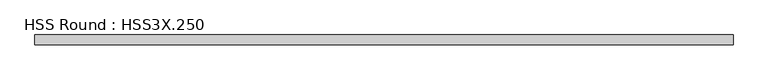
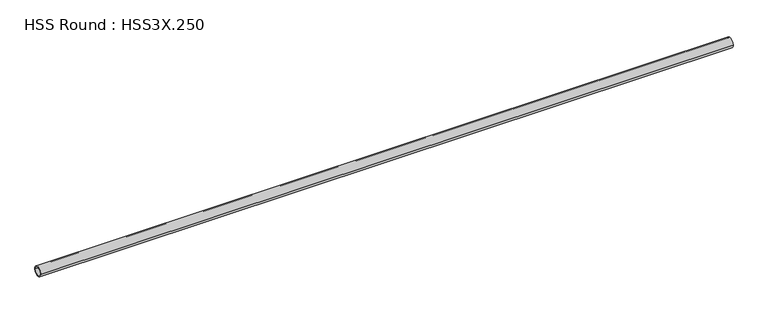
"""IFC4 building model written with IfcOpenShell, lengths in millimetres: member geometry, HSS Round : HSS3X.250."""

import ifcopenshell
import ifcopenshell.guid

model = None  # the IFC model being written
_history = None  # IfcOwnerHistory: only IFC2X3 demands one
_inside = {}  # id of a spatial element -> (the spatial element, [elements in it])
_under = {}  # id of a project, library or spatial element -> (it, [spatial elements below it])
_declared = {}  # id of a project -> (the project, [libraries it declares])
_typed = {}  # id of a type object -> (the type object, [elements of that type])
_made_of = {}  # id of a material, layer set ... -> (it, [elements and type objects made of it])


def new_model(schema):
    """Start an empty IFC model of exactly this schema.

    Asked for "IFC4X3", IfcOpenShell would pick the latest addendum, in which some entities
    have other attributes; the version numbers below select the first issue.
    IFC2X3 requires an IfcOwnerHistory on every rooted entity: one is made here for all.
    """
    global model, _history
    if schema == "IFC4X3":
        model = ifcopenshell.file(schema_version=(4, 3, 0, 0))
    else:
        model = ifcopenshell.file(schema=schema)
    _inside.clear()
    _under.clear()
    _declared.clear()
    _typed.clear()
    _made_of.clear()
    _history = None
    if model.schema == "IFC2X3":
        org = make("IfcOrganization", Name="unknown")
        user = make(
            "IfcPersonAndOrganization",
            ThePerson=make("IfcPerson", FamilyName="unknown"),
            TheOrganization=org,
        )
        app = make(
            "IfcApplication",
            ApplicationDeveloper=org,
            Version="unknown",
            ApplicationFullName="unknown",
            ApplicationIdentifier="unknown",
        )
        _history = make(
            "IfcOwnerHistory",
            OwningUser=user,
            OwningApplication=app,
            ChangeAction="ADDED",
            CreationDate=0,
        )
    return model


def make(cls, **values):
    """One entity of the class cls with the attributes given. An attribute that is None is left unset."""
    return model.create_entity(
        cls, **{name: value for name, value in values.items() if value is not None}
    )


def rooted(cls, **values):
    """An entity with a GlobalId (a new one), such as an element, a storey or a relation."""
    return make(cls, GlobalId=ifcopenshell.guid.new(), OwnerHistory=_history, **values)


def si_unit(unit_type, name, prefix=None):
    """IfcSIUnit, for example si_unit("LENGTHUNIT", "METRE", prefix="MILLI")."""
    return make("IfcSIUnit", UnitType=unit_type, Prefix=prefix, Name=name)


def assignment(units):
    """IfcUnitAssignment: the units of a project."""
    return None if units is None else make("IfcUnitAssignment", Units=units)


def point(xyz):
    """IfcCartesianPoint."""
    return None if xyz is None else make("IfcCartesianPoint", Coordinates=xyz)


def direction(xyz):
    """IfcDirection."""
    return None if xyz is None else make("IfcDirection", DirectionRatios=xyz)


def frame(location, z_axis=None, x_axis=None):
    """IfcAxis2Placement3D, a coordinate frame: its origin and axes. An axis left out is left unset."""
    return make(
        "IfcAxis2Placement3D",
        Location=point(location),
        Axis=direction(z_axis),
        RefDirection=direction(x_axis),
    )


def frame_2d(location, x_axis=None):
    """IfcAxis2Placement2D, a coordinate frame in the plane: its origin and x axis."""
    return make(
        "IfcAxis2Placement2D", Location=point(location), RefDirection=direction(x_axis)
    )


def origin():
    """The frame at (0, 0, 0) with its axes left unset."""
    return frame((0.0, 0.0, 0.0))


def origin_2d():
    """The frame at (0, 0) in the plane with its x axis left unset."""
    return frame_2d((0.0, 0.0))


def place(relative_to, where):
    """IfcLocalPlacement: puts the frame where relative to a parent placement (None: the world)."""
    return make(
        "IfcLocalPlacement", PlacementRelTo=relative_to, RelativePlacement=where
    )


def context(
    kind, dimensions, precision=None, world=None, true_north=None, identifier=None
):
    """IfcGeometricRepresentationContext, for example the 3D "Model" context."""
    return make(
        "IfcGeometricRepresentationContext",
        ContextIdentifier=identifier,
        ContextType=kind,
        CoordinateSpaceDimension=dimensions,
        Precision=precision,
        WorldCoordinateSystem=world,
        TrueNorth=true_north,
    )


def project(units=None, contexts=None):
    """IfcProject with its units and contexts."""
    return rooted(
        "IfcProject",
        Name="project",
        RepresentationContexts=contexts,
        UnitsInContext=assignment(units),
    )


def spatial(cls, under=None, at=None, **own):
    """A site, building, storey or space (cls), placed at a placement, below another one or the project."""
    s = rooted(cls, ObjectPlacement=at, **own)
    if under is not None:
        _under.setdefault(under.id(), (under, []))[1].append(s)
    return s


def circle_curve(where, radius):
    """IfcCircle in the frame where."""
    return make("IfcCircle", Position=where, Radius=radius)


def trimmed(basis, trim1, trim2, sense, master):
    """IfcTrimmedCurve: the piece of a basis curve between two trims."""
    return make(
        "IfcTrimmedCurve",
        BasisCurve=basis,
        Trim1=trim1,
        Trim2=trim2,
        SenseAgreement=sense,
        MasterRepresentation=master,
    )


def segment(curve, same_sense, transition):
    """IfcCompositeCurveSegment."""
    return make(
        "IfcCompositeCurveSegment",
        Transition=transition,
        SameSense=same_sense,
        ParentCurve=curve,
    )


def composite_curve(segments, self_intersect=None):
    """IfcCompositeCurve: segments joined end to end."""
    return make("IfcCompositeCurve", Segments=segments, SelfIntersect=self_intersect)


def outline(outer, holes=None, kind="AREA"):
    """IfcArbitraryClosedProfileDef: a profile drawn as a closed curve; with holes, ...WithVoids."""
    if holes is None:
        return make("IfcArbitraryClosedProfileDef", ProfileType=kind, OuterCurve=outer)
    return make(
        "IfcArbitraryProfileDefWithVoids",
        ProfileType=kind,
        OuterCurve=outer,
        InnerCurves=holes,
    )


def extrude(swept, where, along, depth):
    """IfcExtrudedAreaSolid: the profile swept, set in the frame where, extruded along a direction by depth."""
    return make(
        "IfcExtrudedAreaSolid",
        SweptArea=swept,
        Position=where,
        ExtrudedDirection=direction(along),
        Depth=depth,
    )


def shape(context_of_items, identifier, shape_type, items):
    """IfcShapeRepresentation: the items that make up one representation, for example the "Body"."""
    return make(
        "IfcShapeRepresentation",
        ContextOfItems=context_of_items,
        RepresentationIdentifier=identifier,
        RepresentationType=shape_type,
        Items=items,
    )


def source(mapping_origin, context_of_items, identifier, shape_type, items):
    """IfcRepresentationMap: a shape defined once, which mapped items show again and again."""
    return make(
        "IfcRepresentationMap",
        MappingOrigin=mapping_origin,
        MappedRepresentation=shape(context_of_items, identifier, shape_type, items),
    )


def transform(
    local_origin,
    x_axis=None,
    y_axis=None,
    z_axis=None,
    scale=None,
    scale2=None,
    scale3=None,
    uniform=True,
):
    """IfcCartesianTransformationOperator3D, or its non-uniform kind. x_axis, y_axis, z_axis: its Axis1, 2, 3."""
    if uniform:
        return make(
            "IfcCartesianTransformationOperator3D",
            Axis1=direction(x_axis),
            Axis2=direction(y_axis),
            LocalOrigin=point(local_origin),
            Scale=scale,
            Axis3=direction(z_axis),
        )
    return make(
        "IfcCartesianTransformationOperator3DnonUniform",
        Axis1=direction(x_axis),
        Axis2=direction(y_axis),
        LocalOrigin=point(local_origin),
        Scale=scale,
        Axis3=direction(z_axis),
        Scale2=scale2,
        Scale3=scale3,
    )


def mapped(mapping_source, mapping_target):
    """IfcMappedItem: shows the shape of a source again, moved by a transform."""
    return make(
        "IfcMappedItem", MappingSource=mapping_source, MappingTarget=mapping_target
    )


def made_of(thing, what):
    """Note that an element or type object is made of a material, layer set ...; save() writes the relation."""
    if what is not None:
        _made_of.setdefault(what.id(), (what, []))[1].append(thing)
    return thing


def element(
    cls,
    number,
    at=None,
    inside=None,
    cuts=None,
    type_object=None,
    material=None,
    context=None,
    identifier="Body",
    shape_type=None,
    held_by="IfcProductDefinitionShape",
    body=None,
    shapes=None,
    **own,
):
    """One element of the class cls, such as IfcWall. Its Tag is "e" and its number.

    at: its placement. inside: the storey or other place that contains it. cuts: it is an
    opening in that element (IfcRelVoidsElement). A single representation is given by context,
    identifier, shape_type and body (its items); several are given by shapes. held_by: the class
    of the entity that holds the representations. save() writes the other relations.
    """
    e = rooted(cls, Tag="e%d" % number, ObjectPlacement=at, **own)
    if body is not None:
        shapes = [shape(context, identifier, shape_type, body)]
    if shapes is not None:
        e.Representation = make(held_by, Representations=shapes)
    if inside is not None:
        _inside.setdefault(inside.id(), (inside, []))[1].append(e)
    if cuts is not None:
        rooted(
            "IfcRelVoidsElement", RelatingBuildingElement=cuts, RelatedOpeningElement=e
        )
    if type_object is not None:
        _typed.setdefault(type_object.id(), (type_object, []))[1].append(e)
    return made_of(e, material)


def aggregate(whole, parts):
    """IfcRelAggregates: a whole, such as a stair, and the parts it consists of."""
    return rooted("IfcRelAggregates", RelatingObject=whole, RelatedObjects=parts)


def save(model, path):
    """Write the relations noted so far, then the file.

    IfcRelAggregates (storeys below a building ...), IfcRelContainedInSpatialStructure (elements
    in a storey), IfcRelDefinesByType, IfcRelAssociatesMaterial and IfcRelDeclares: one each for
    every whole, place, type object, material and project.
    """
    for whole, parts in _under.values():
        aggregate(whole, parts)
    for where, things in _inside.values():
        rooted(
            "IfcRelContainedInSpatialStructure",
            RelatedElements=things,
            RelatingStructure=where,
        )
    for kind, things in _typed.values():
        rooted("IfcRelDefinesByType", RelatedObjects=things, RelatingType=kind)
    for what, things in _made_of.values():
        rooted("IfcRelAssociatesMaterial", RelatedObjects=things, RelatingMaterial=what)
    for by, libraries in _declared.values():
        rooted("IfcRelDeclares", RelatingContext=by, RelatedDefinitions=libraries)
    model.write(path)


def hss_round_hss3x_250_2a7507b8(model_context):
    return source(origin(), model_context, "Body", "SweptSolid", [
        extrude(outline(composite_curve([segment(trimmed(circle_curve(origin_2d(), 38.1), [point((-38.1, 0.0))], [point((38.1, 0.0))], False, "CARTESIAN"), True, "CONTINUOUS"), segment(trimmed(circle_curve(origin_2d(), 38.1), [point((38.1, 0.0))], [point((-38.1, 0.0))], False, "CARTESIAN"), True, "CONTINUOUS")], self_intersect=False), holes=[composite_curve([segment(trimmed(circle_curve(origin_2d(), 31.75), [point((31.75, 0.0))], [point((-31.75, 0.0))], True, "CARTESIAN"), True, "CONTINUOUS"), segment(trimmed(circle_curve(origin_2d(), 31.75), [point((-31.75, 0.0))], [point((31.75, 0.0))], True, "CARTESIAN"), True, "CONTINUOUS")], self_intersect=False)]), frame((-2622.2769385, 0.0, 0.0), z_axis=(1.0, 0.0, 0.0), x_axis=(0.0, 1.0, 0.0)), (0.0, 0.0, 1.0), 5356.9968858),
    ])


if __name__ == "__main__":
    model = new_model("IFC4")
    model_context = context("Model", 3, world=origin())
    ifc_project = project(units=[si_unit("LENGTHUNIT", "METRE", prefix="MILLI")], contexts=[model_context])
    site = spatial("IfcSite", under=ifc_project)
    building = spatial("IfcBuilding", under=site)
    placement = place(None, origin())
    hss_round_hss3x_250_shape = hss_round_hss3x_250_2a7507b8(model_context)
    element("IfcMember", 1, ObjectType="HSS Round : HSS3X.250", at=placement, inside=building, context=model_context, shape_type="MappedRepresentation", body=[
        mapped(hss_round_hss3x_250_shape, transform((0.0, 0.0, 0.0), x_axis=(1.0, 0.0, 0.0), y_axis=(0.0, 1.0, 0.0), z_axis=(0.0, 0.0, 1.0))),
    ])
    save(model, "model.ifc")
